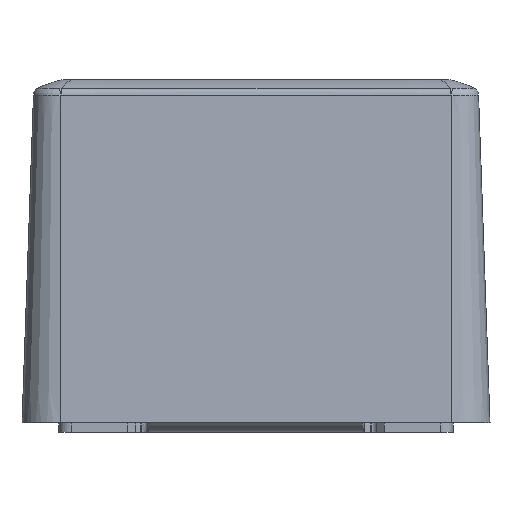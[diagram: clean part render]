
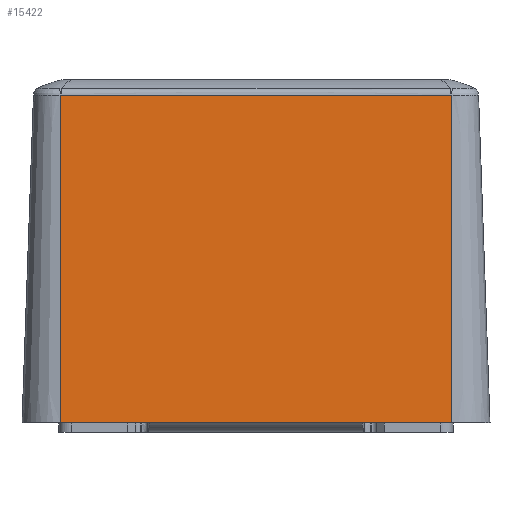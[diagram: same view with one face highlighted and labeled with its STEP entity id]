
A CAD part, left-side view. The second image highlights one B-rep face of the part: STEP entity #15422.
In plain terms, the highlighted planar face has unit normal (-0.999, 0, 0.035) as drawn and (-0.999, 0.035, 0) by its records, which use the part's own axes.
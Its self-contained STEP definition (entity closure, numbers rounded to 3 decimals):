
#166=CARTESIAN_POINT('',(-35.,51.553,-30.56));
#167=CARTESIAN_POINT('',(-35.,51.553,-30.599));
#168=CARTESIAN_POINT('',(-35.,51.552,-30.677));
#169=CARTESIAN_POINT('',(-35.,51.55,-30.759));
#170=CARTESIAN_POINT('',(-35.,51.548,-30.8));
#183=CARTESIAN_POINT('',(-35.,51.548,30.8));
#184=CARTESIAN_POINT('',(-35.,51.55,30.759));
#185=CARTESIAN_POINT('',(-35.,51.552,30.678));
#186=CARTESIAN_POINT('',(-35.,51.553,30.599));
#187=CARTESIAN_POINT('',(-35.,51.553,30.56));
#200=CARTESIAN_POINT('',(-35.,51.553,30.56));
#201=CARTESIAN_POINT('',(-35.,51.555,23.708));
#202=CARTESIAN_POINT('',(-35.,51.558,10.041));
#203=CARTESIAN_POINT('',(-35.,51.558,-10.48));
#204=CARTESIAN_POINT('',(-35.,51.555,-23.895));
#205=CARTESIAN_POINT('',(-35.,51.553,-30.56));
#375=DIRECTION('',(0.,0.,1.));
#376=VECTOR('',#375,61.6);
#377=CARTESIAN_POINT('',(-36.8,0.,-30.8));
#378=LINE('',#377,#376);
#485=DIRECTION('',(-0.035,-0.999,0.));
#486=VECTOR('',#485,51.579);
#487=CARTESIAN_POINT('',(-35.,51.548,-30.8));
#488=LINE('',#487,#486);
#556=DIRECTION('',(-0.035,-0.999,0.));
#557=VECTOR('',#556,51.579);
#558=CARTESIAN_POINT('',(-35.,51.548,30.8));
#559=LINE('',#558,#557);
#580=CARTESIAN_POINT('',(-35.,51.548,30.8));
#12483=CARTESIAN_POINT('',(-36.8,0.,30.8));
#12485=VERTEX_POINT('',#12483);
#12486=CARTESIAN_POINT('',(-36.8,0.,-30.8));
#12488=VERTEX_POINT('',#12486);
#12520=VERTEX_POINT('',#580);
#12522=VERTEX_POINT('',#187);
#12524=VERTEX_POINT('',#205);
#12526=VERTEX_POINT('',#170);
#15404=CARTESIAN_POINT('',(-36.8,0.,-39.207));
#15405=DIRECTION('',(-0.999,0.035,0.));
#15406=DIRECTION('',(0.,0.,1.));
#15407=AXIS2_PLACEMENT_3D('',#15404,#15405,#15406);
#15408=PLANE('',#15407);
#15410=ORIENTED_EDGE('',*,*,#15409,.F.);
#15412=ORIENTED_EDGE('',*,*,#15411,.T.);
#15414=ORIENTED_EDGE('',*,*,#15413,.F.);
#15416=ORIENTED_EDGE('',*,*,#15415,.F.);
#15417=ORIENTED_EDGE('',*,*,#15394,.F.);
#15419=ORIENTED_EDGE('',*,*,#15418,.F.);
#15420=EDGE_LOOP('',(#15410,#15412,#15414,#15416,#15417,#15419));
#15421=FACE_OUTER_BOUND('',#15420,.F.);
#15422=ADVANCED_FACE('',(#15421),#15408,.T.);
#171=B_SPLINE_CURVE_WITH_KNOTS('',3,(#166,#167,#168,#169,#170),.UNSPECIFIED.,
.F.,.F.,(4,1,4),(0.,0.5,1.),.UNSPECIFIED.);
#188=B_SPLINE_CURVE_WITH_KNOTS('',3,(#183,#184,#185,#186,#187),.UNSPECIFIED.,
.F.,.F.,(4,1,4),(0.,0.5,1.),.UNSPECIFIED.);
#206=B_SPLINE_CURVE_WITH_KNOTS('',3,(#200,#201,#202,#203,#204,#205),
.UNSPECIFIED.,.F.,.F.,(4,1,1,4),(0.,0.333,0.667,1.),
.UNSPECIFIED.);
#15394=EDGE_CURVE('',#12524,#12526,#171,.T.);
#15409=EDGE_CURVE('',#12520,#12522,#188,.T.);
#15411=EDGE_CURVE('',#12520,#12485,#559,.T.);
#15413=EDGE_CURVE('',#12488,#12485,#378,.T.);
#15415=EDGE_CURVE('',#12526,#12488,#488,.T.);
#15418=EDGE_CURVE('',#12522,#12524,#206,.T.);
